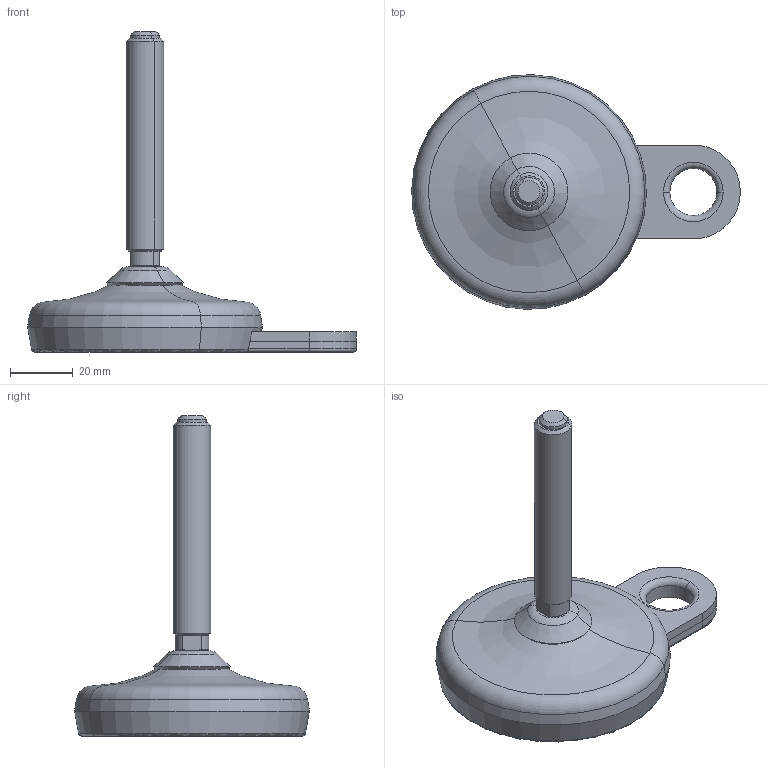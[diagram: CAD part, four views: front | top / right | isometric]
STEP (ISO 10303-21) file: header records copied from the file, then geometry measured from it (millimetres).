
FILE_DESCRIPTION(('CATIA V5 STEP Exchange'),'2;1');
FILE_NAME('X:\CODICI MOVEX\3D per clienti\3D definitivi\Part 900\P93402_01.stp','2016-10-03T12:08:31+00:00',('none'),('none'),'Version 5-6 Release 2012','CATIA V5 STEP AP203','none');
FILE_SCHEMA(('CONFIG_CONTROL_DESIGN'));
Length unit declared in the file: millimetre
Products named in the file (1): P93402_01
Assembly tree (3 placements, depth 2):
  P93402_01
    #58
    #1953
    #2294
Bounding box: 104.99 x 74.98 x 102.3 mm (x, y, z)
Volume: 87530.9 mm3; surface area: 37204.7 mm2
Topology: 5 solids, 5 shells, 132 faces, 286 edges, 176 vertices
Faces by surface type: cone 36, cylinder 35, plane 34, torus 21, revolution 6
Entity records: 3403 total; most frequent: CARTESIAN_POINT 619, ORIENTED_EDGE 572, DIRECTION 459, EDGE_CURVE 286, AXIS2_PLACEMENT_3D 272, CIRCLE 181, VERTEX_POINT 176, EDGE_LOOP 156
